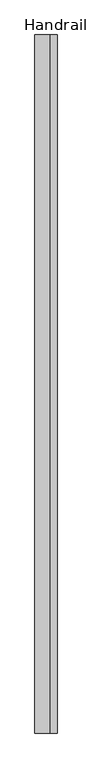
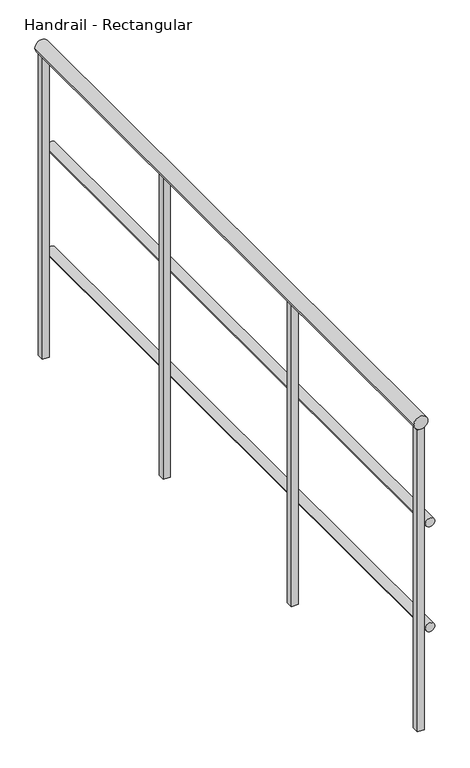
"""IFC4 building model written with IfcOpenShell, lengths in millimetres: railing geometry, Handrail - Rectangular."""

from ifc_helpers import new_model, si_unit, point, frame, frame_2d, origin, place, context, project, spatial, polyline, circle_curve, trimmed, segment, composite_curve, outline, extrude, source, transform, mapped, element, save


def handrail_rectangular_7468691e(model_context):
    return source(origin(), model_context, "Body", "SweptSolid", [
        extrude(outline(composite_curve([segment(trimmed(circle_curve(frame_2d((3644.9, 2322.5410437)), 12.7), [point((3644.9, 2335.2410437))], [point((3644.9, 2309.8410437))], False, "CARTESIAN"), True, "CONTINUOUS"), segment(trimmed(circle_curve(frame_2d((3644.9, 2322.5410437)), 12.7), [point((3644.9, 2309.8410437))], [point((3644.9, 2335.2410437))], False, "CARTESIAN"), True, "CONTINUOUS")], self_intersect=False)), frame((0.0, -33825.9683133, 0.0), z_axis=(0.0, 1.0, 0.0), x_axis=(0.0, 0.0, 1.0)), (0.0, 0.0, 1.0), 1803.4),
        extrude(outline(composite_curve([segment(trimmed(circle_curve(frame_2d((3340.1, 2322.5410437)), 12.7), [point((3340.1, 2335.2410437))], [point((3340.1, 2309.8410437))], False, "CARTESIAN"), True, "CONTINUOUS"), segment(trimmed(circle_curve(frame_2d((3340.1, 2322.5410437)), 12.7), [point((3340.1, 2309.8410437))], [point((3340.1, 2335.2410437))], False, "CARTESIAN"), True, "CONTINUOUS")], self_intersect=False)), frame((0.0, -33825.9683133, 0.0), z_axis=(0.0, 1.0, 0.0), x_axis=(0.0, 0.0, 1.0)), (0.0, 0.0, 1.0), 1803.4),
        extrude(outline(composite_curve([segment(trimmed(circle_curve(frame_2d((3943.35, 2297.1410437)), 19.05), [point((3943.35, 2316.1910437))], [point((3943.35, 2278.0910437))], False, "CARTESIAN"), True, "CONTINUOUS"), segment(trimmed(circle_curve(frame_2d((3943.35, 2297.1410437)), 19.05), [point((3943.35, 2278.0910437))], [point((3943.35, 2316.1910437))], False, "CARTESIAN"), True, "CONTINUOUS")], self_intersect=False)), frame((0.0, -33825.9683133, 0.0), z_axis=(0.0, 1.0, 0.0), x_axis=(0.0, 0.0, 1.0)), (0.0, 0.0, 1.0), 1803.4),
        extrude(outline(polyline([(2287.6160437, -32616.2933133), (2287.6160437, -32597.2433133), (2306.6660437, -32597.2433133), (2306.6660437, -32616.2933133), (2287.6160437, -32616.2933133)])), frame((0.0, 0.0, 3048.0), z_axis=(0.0, 0.0, 1.0), x_axis=(1.0, 0.0, 0.0)), (0.0, 0.0, 1.0), 876.3),
        extrude(outline(polyline([(2287.6160437, -33225.8933133), (2287.6160437, -33206.8433133), (2306.6660437, -33206.8433133), (2306.6660437, -33225.8933133), (2287.6160437, -33225.8933133)])), frame((0.0, 0.0, 3048.0), z_axis=(0.0, 0.0, 1.0), x_axis=(1.0, 0.0, 0.0)), (0.0, 0.0, 1.0), 876.3),
        extrude(outline(polyline([(2287.6160437, -32041.6183133), (2287.6160437, -32022.5683133), (2306.6660437, -32022.5683133), (2306.6660437, -32041.6183133), (2287.6160437, -32041.6183133)])), frame((0.0, 0.0, 3048.0), z_axis=(0.0, 0.0, 1.0), x_axis=(1.0, 0.0, 0.0)), (0.0, 0.0, 1.0), 876.3),
        extrude(outline(polyline([(2287.6160437, -33825.9683133), (2287.6160437, -33806.9183133), (2306.6660437, -33806.9183133), (2306.6660437, -33825.9683133), (2287.6160437, -33825.9683133)])), frame((0.0, 0.0, 3048.0), z_axis=(0.0, 0.0, 1.0), x_axis=(1.0, 0.0, 0.0)), (0.0, 0.0, 1.0), 876.3),
    ])


if __name__ == "__main__":
    model = new_model("IFC4")
    model_context = context("Model", 3, world=origin())
    ifc_project = project(units=[si_unit("LENGTHUNIT", "METRE", prefix="MILLI")], contexts=[model_context])
    site = spatial("IfcSite", under=ifc_project)
    building = spatial("IfcBuilding", under=site)
    placement = place(None, origin())
    handrail_rectangular_shape = handrail_rectangular_7468691e(model_context)
    element("IfcRailing", 1, ObjectType="Handrail - Rectangular", at=placement, inside=building, context=model_context, shape_type="MappedRepresentation", body=[
        mapped(handrail_rectangular_shape, transform((0.0, 0.0, 0.0), x_axis=(1.0, 0.0, 0.0), y_axis=(0.0, 1.0, 0.0), z_axis=(0.0, 0.0, 1.0))),
    ])
    save(model, "model.ifc")
